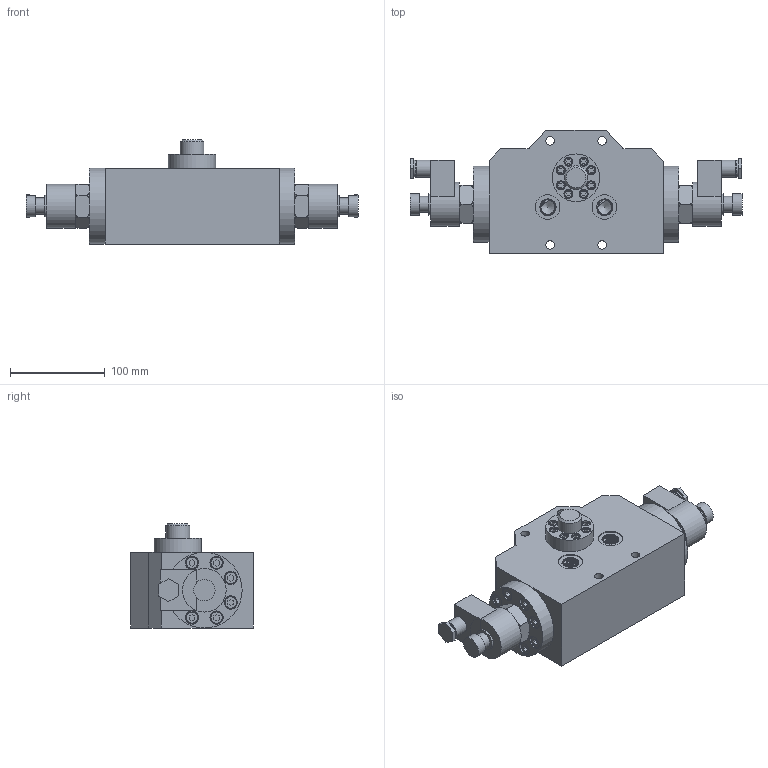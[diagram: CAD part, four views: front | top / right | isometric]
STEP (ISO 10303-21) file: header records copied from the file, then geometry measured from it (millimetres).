
FILE_DESCRIPTION(/* description */ (''),/* implementation_level */ '2;1');
FILE_NAME(/* name */ '数字6.prt.stp',/* time_stamp */ '2023-05-03T15:16:56+08:00',/* author */ (''),/* organization */ (''),/* preprocessor_version */ 'ST-DEVELOPER v16.7',/* originating_system */ 'SIEMENS PLM Software NX 12.0',/* authorisation */ '');
FILE_SCHEMA (('AUTOMOTIVE_DESIGN { 1 0 10303 214 3 1 1 1 }'));
Length unit declared in the file: millimetre
Products named in the file (1): 数字6
Bounding box: 351.03 x 130 x 110 mm (x, y, z)
Volume: 2177542 mm3; surface area: 249924.4 mm2
Topology: 49 solids, 49 shells, 823 faces, 1913 edges, 1255 vertices
Faces by surface type: plane 490, cylinder 200, torus 72, cone 52, bspline 9
Full cylindrical faces by diameter (mm): 4.2 x8, 5 x8, 5.5 x8, 6.8 x16, 8 x16, 8.5 x8, 9 x20, 9.5 x8, 13 x16, 14 x16, 16 x2, 16.666 x2, 18 x4, 22.666 x4, 25.101 x2, 26 x2, 31 x1, 46.188 x2, 50.299 x1, 80 x2
Entity records: 40114 total; most frequent: CARTESIAN_POINT 22196, DIRECTION 3613, ORIENTED_EDGE 3142, EDGE_CURVE 1571, AXIS2_PLACEMENT_3D 1359, EDGE_LOOP 1210, VERTEX_POINT 1186, LINE 895
